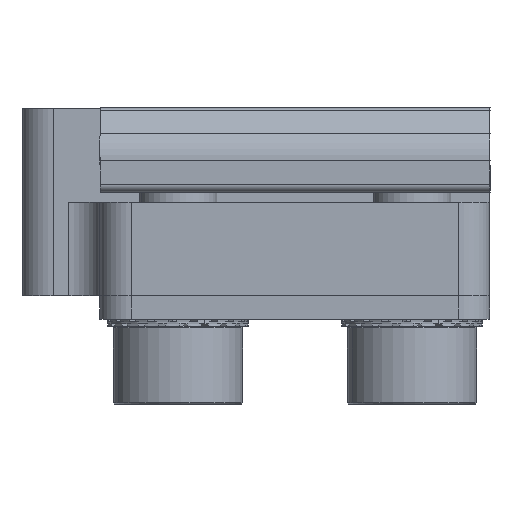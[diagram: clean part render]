
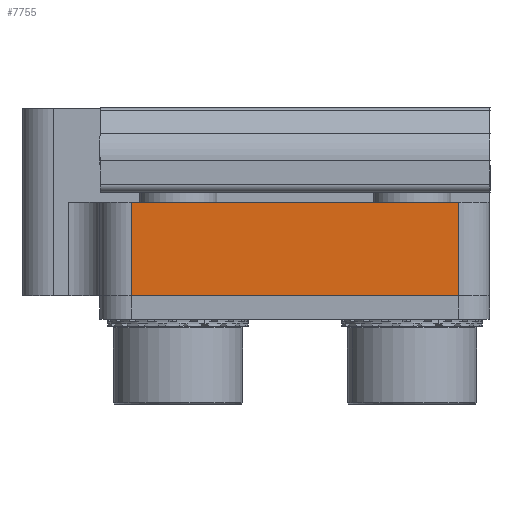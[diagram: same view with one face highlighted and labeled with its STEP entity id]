
A CAD part, front view. The second image highlights one B-rep face of the part: STEP entity #7755.
In plain terms, the highlighted planar face has unit normal (0, -1, 0).
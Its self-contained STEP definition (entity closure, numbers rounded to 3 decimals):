
#44 = VECTOR ( 'NONE', #31124, 1000. ) ;
#241 = PLANE ( 'NONE',  #13286 ) ;
#1033 = VERTEX_POINT ( 'NONE', #1762 ) ;
#1762 = CARTESIAN_POINT ( 'NONE',  ( -10.5, -92.5, 6. ) ) ;
#4187 = VERTEX_POINT ( 'NONE', #26436 ) ;
#4392 = EDGE_CURVE ( 'NONE', #1033, #5904, #27379, .T. ) ;
#4488 = ORIENTED_EDGE ( 'NONE', *, *, #4392, .T. ) ;
#5904 = VERTEX_POINT ( 'NONE', #8337 ) ;
#7636 = ORIENTED_EDGE ( 'NONE', *, *, #18958, .T. ) ;
#7755 = ADVANCED_FACE ( 'NONE', ( #24224 ), #241, .F. ) ;
#8337 = CARTESIAN_POINT ( 'NONE',  ( -10.5, -92.5, 0. ) ) ;
#9912 = LINE ( 'NONE', #29857, #25995 ) ;
#11588 = LINE ( 'NONE', #18794, #19841 ) ;
#12687 = CARTESIAN_POINT ( 'NONE',  ( -10.5, -92.5, 0. ) ) ;
#12769 = DIRECTION ( 'NONE',  ( -1., 0., 0. ) ) ;
#13280 = ORIENTED_EDGE ( 'NONE', *, *, #18866, .T. ) ;
#13286 = AXIS2_PLACEMENT_3D ( 'NONE', #29430, #17288, #27048 ) ;
#14131 = CARTESIAN_POINT ( 'NONE',  ( 10.5, -92.5, 0. ) ) ;
#16398 = DIRECTION ( 'NONE',  ( 1., 0., 0. ) ) ;
#16744 = LINE ( 'NONE', #21405, #44 ) ;
#17288 = DIRECTION ( 'NONE',  ( 0., 1., 0. ) ) ;
#18794 = CARTESIAN_POINT ( 'NONE',  ( 12.5, -92.5, 0. ) ) ;
#18866 = EDGE_CURVE ( 'NONE', #4187, #1033, #9912, .T. ) ;
#18958 = EDGE_CURVE ( 'NONE', #29073, #4187, #16744, .T. ) ;
#19841 = VECTOR ( 'NONE', #16398, 1000. ) ;
#20746 = EDGE_LOOP ( 'NONE', ( #22478, #7636, #13280, #4488 ) ) ;
#21405 = CARTESIAN_POINT ( 'NONE',  ( 10.5, -92.5, 6. ) ) ;
#22478 = ORIENTED_EDGE ( 'NONE', *, *, #22633, .T. ) ;
#22633 = EDGE_CURVE ( 'NONE', #5904, #29073, #11588, .T. ) ;
#23381 = VECTOR ( 'NONE', #29924, 1000. ) ;
#24224 = FACE_OUTER_BOUND ( 'NONE', #20746, .T. ) ;
#25995 = VECTOR ( 'NONE', #12769, 1000. ) ;
#26436 = CARTESIAN_POINT ( 'NONE',  ( 10.5, -92.5, 6. ) ) ;
#27048 = DIRECTION ( 'NONE',  ( 0., 0., 1. ) ) ;
#27379 = LINE ( 'NONE', #12687, #23381 ) ;
#29073 = VERTEX_POINT ( 'NONE', #14131 ) ;
#29430 = CARTESIAN_POINT ( 'NONE',  ( 0., -92.5, 0. ) ) ;
#29857 = CARTESIAN_POINT ( 'NONE',  ( -12.5, -92.5, 6. ) ) ;
#29924 = DIRECTION ( 'NONE',  ( 0., 0., -1. ) ) ;
#31124 = DIRECTION ( 'NONE',  ( 0., 0., 1. ) ) ;
